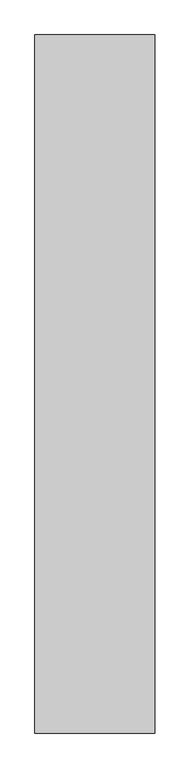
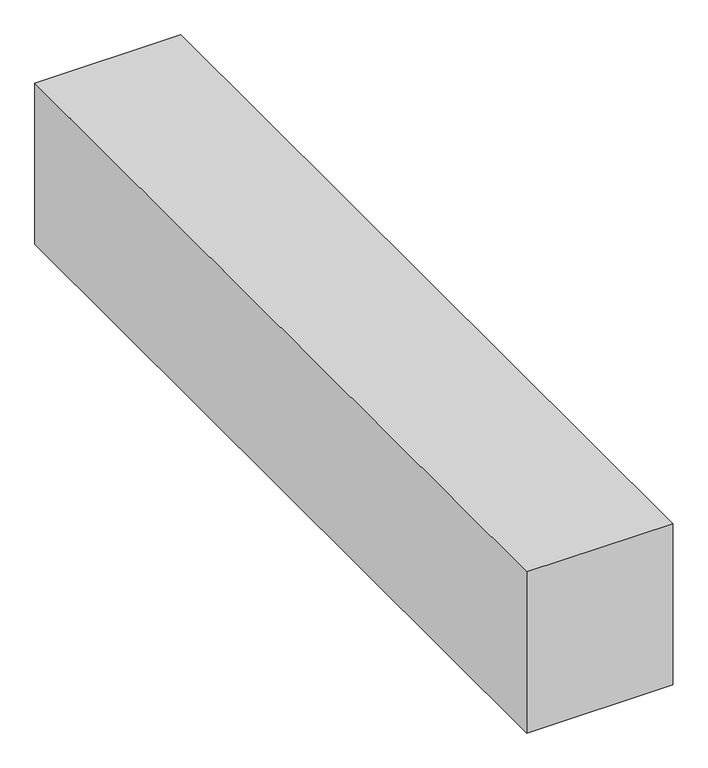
"""IFC4 building model written with IfcOpenShell, lengths in millimetres: proxy geometry, 制気口ボックス : 制気口ボックス."""

from ifc_helpers import new_model, si_unit, frame, origin, place, context, project, spatial, polyline, outline, extrude, source, transform, mapped, element, save


def mechanical_equipment_f78f9f3e(model_context):
    return source(origin(), model_context, "Body", "SweptSolid", [
        extrude(outline(polyline([(150.0, 875.0), (150.0, -875.0), (-150.0, -875.0), (-150.0, 875.0), (150.0, 875.0)])), frame((0.0, 0.0, -175.0), z_axis=(0.0, 0.0, 1.0), x_axis=(1.0, 0.0, 0.0)), (0.0, 0.0, 1.0), 350.0),
    ])


if __name__ == "__main__":
    model = new_model("IFC4")
    model_context = context("Model", 3, world=origin())
    ifc_project = project(units=[si_unit("LENGTHUNIT", "METRE", prefix="MILLI")], contexts=[model_context])
    site = spatial("IfcSite", under=ifc_project)
    building = spatial("IfcBuilding", under=site)
    placement = place(None, origin())
    mechanical_equipment_shape = mechanical_equipment_f78f9f3e(model_context)
    element("IfcBuildingElementProxy", 1, Name="制気口ボックス : 制気口ボックス", ObjectType="制気口ボックス : 制気口ボックス", at=placement, inside=building, context=model_context, shape_type="MappedRepresentation", body=[
        mapped(mechanical_equipment_shape, transform((0.0, 0.0, 0.0), x_axis=(1.0, 0.0, 0.0), y_axis=(0.0, 1.0, 0.0), z_axis=(0.0, 0.0, 1.0))),
    ])
    save(model, "model.ifc")
